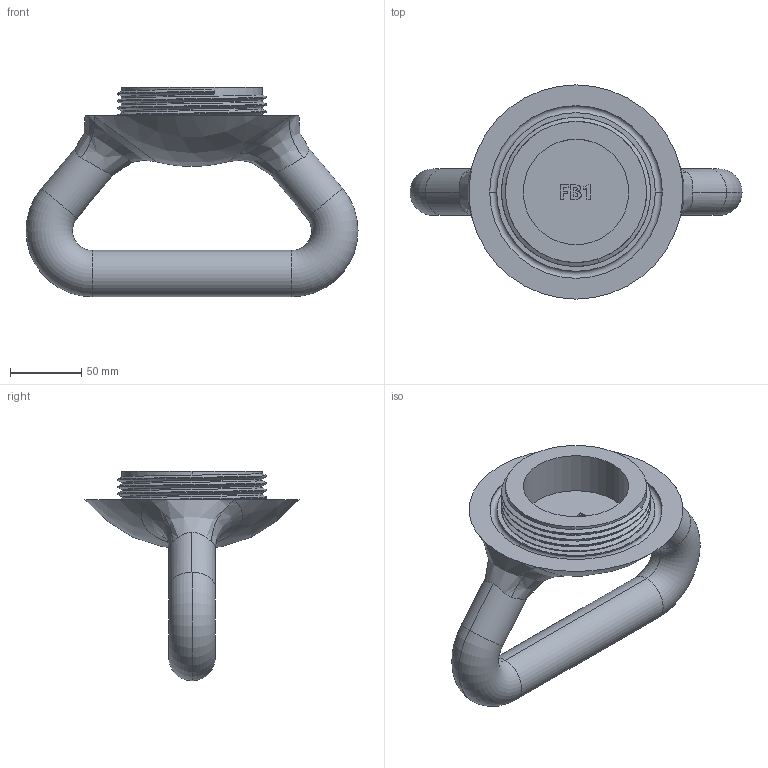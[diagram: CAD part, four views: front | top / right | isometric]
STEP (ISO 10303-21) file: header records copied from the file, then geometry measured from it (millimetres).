
FILE_DESCRIPTION (( 'STEP AP214' ), '1' );
FILE_NAME ('Parte superior.STEP', '2024-11-22T19:51:51', ( '' ), ( '' ), 'SwSTEP 2.0', 'SolidWorks 2020', '' );
FILE_SCHEMA (( 'AUTOMOTIVE_DESIGN' ));
Length unit declared in the file: millimetre
Products named in the file (1): Parte superior
Bounding box: 232.5 x 150 x 146.74 mm (x, y, z)
Volume: 706691.9 mm3; surface area: 95779.8 mm2
Topology: 1 solids, 1 shells, 82 faces, 207 edges, 133 vertices
Faces by surface type: plane 35, bspline 19, cylinder 16, torus 10, sphere 2
Entity records: 5511 total; most frequent: CARTESIAN_POINT 3688, ORIENTED_EDGE 414, DIRECTION 306, EDGE_CURVE 207, VERTEX_POINT 133, VECTOR 102, LINE 102, AXIS2_PLACEMENT_3D 102
